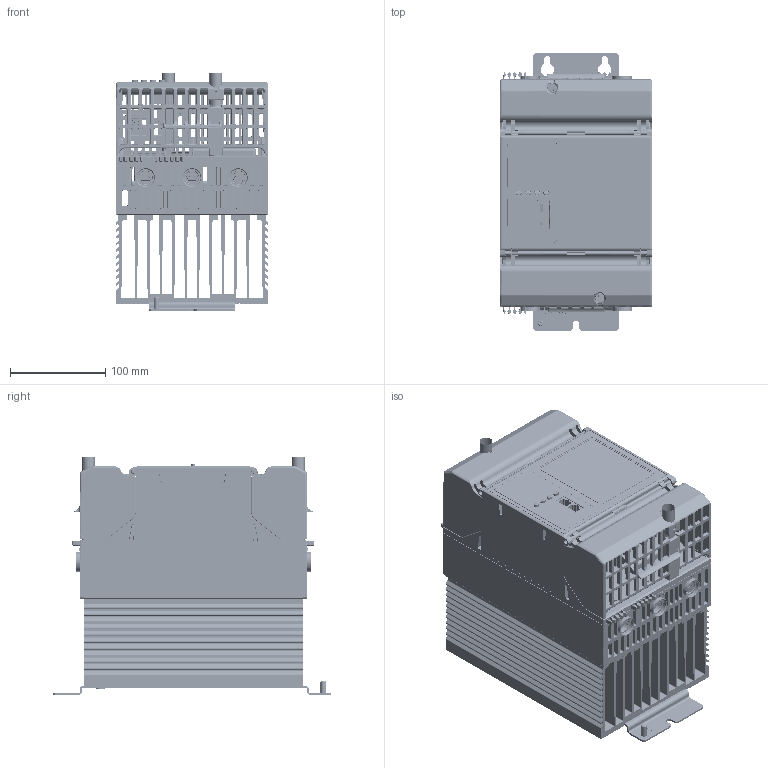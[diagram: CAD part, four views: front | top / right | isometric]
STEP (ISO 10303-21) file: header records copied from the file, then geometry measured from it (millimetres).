
FILE_DESCRIPTION((''),'2;1');
FILE_NAME('EPACK_80-100A_2-3PH','2017-01-26T',('SESA317746'),(''),'PRO/ENGINEER BY PARAMETRIC TECHNOLOGY CORPORATION, 2014320','PRO/ENGINEER BY PARAMETRIC TECHNOLOGY CORPORATION, 2014320','');
FILE_SCHEMA(('CONFIG_CONTROL_DESIGN'));
Products named in the file (1): EPACK_80-100A_2-3PH
Bounding box: 160 x 291 x 249.9 mm (x, y, z)
Volume: 1778599.6 mm3; surface area: 1339148.3 mm2
Topology: 4 solids, 150 shells, 17669 faces, 49119 edges, 31794 vertices
Faces by surface type: plane 9383, cylinder 3608, bspline 2064, extrusion 1403, cone 574, torus 517, sphere 120
Entity records: 707654 total; most frequent: CARTESIAN_POINT 275554, ORIENTED_EDGE 97118, DIRECTION 75529, EDGE_CURVE 49066, VECTOR 33277, LINE 31874, VERTEX_POINT 31795, AXIS2_PLACEMENT_3D 21126
